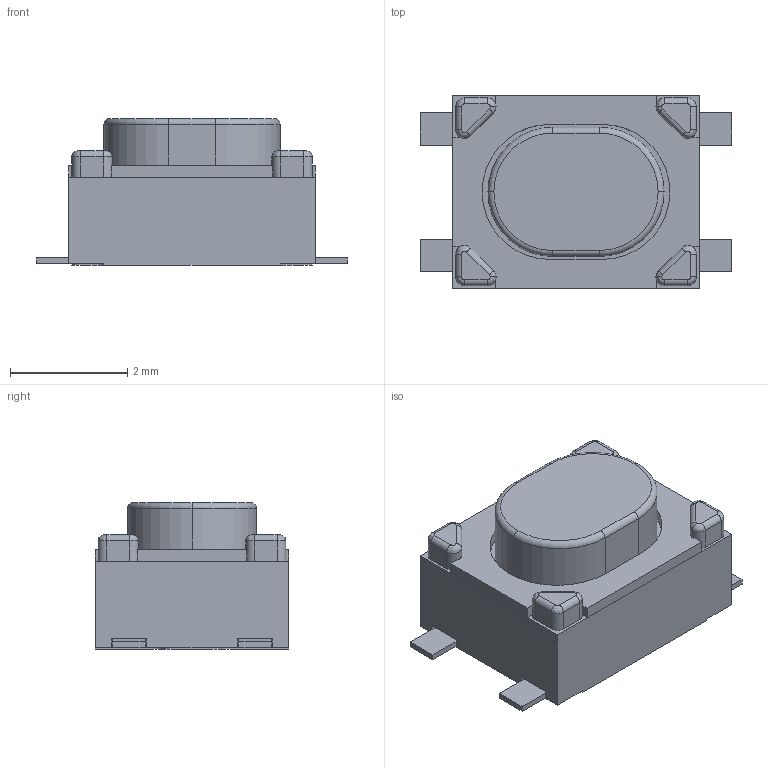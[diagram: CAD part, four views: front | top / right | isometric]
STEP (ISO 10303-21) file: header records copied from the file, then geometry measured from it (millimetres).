
FILE_DESCRIPTION((''),'2;1');
FILE_NAME('JQA3242-B0253-01AG-1-105_ASM','2026-04-11T15:42:38',('Admin'),(''),'CREO PARAMETRIC BY PTC INC, 2019224','CREO PARAMETRIC BY PTC INC, 2019224','');
FILE_SCHEMA(('AUTOMOTIVE_DESIGN { 1 0 10303 214 1 1 1 1 }'));
Length unit declared in the file: millimetre
Products named in the file (6): JQA3242-B0253-01AG-1-105_02; JQA3242-B0253-01AG-1-105_03; JQA3242-B0253-01AG-1-105_06; JQA3242-B0253-01AG-1-105_07; JQA3242-B0253-01AG-1-105_01_ASM; JQA3242-B0253-01AG-1-105_ASM
Assembly tree (6 placements, depth 3):
  JQA3242-B0253-01AG-1-105_ASM
    JQA3242-B0253-01AG-1-105_01_ASM
      JQA3242-B0253-01AG-1-105_02
      JQA3242-B0253-01AG-1-105_03
      JQA3242-B0253-01AG-1-105_06
      JQA3242-B0253-01AG-1-105_07  x2
Bounding box: 5.3 x 3.3 x 2.5 mm (x, y, z)
Volume: 27.2 mm3; surface area: 111 mm2
Topology: 5 solids, 5 shells, 238 faces, 633 edges, 410 vertices
Faces by surface type: plane 123, cylinder 95, bspline 16, torus 4
Entity records: 8719 total; most frequent: CARTESIAN_POINT 1589, DIRECTION 1221, ORIENTED_EDGE 1146, EDGE_CURVE 573, AXIS2_PLACEMENT_3D 433, PRESENTATION_STYLE_ASSIGNMENT 432, STYLED_ITEM 432, CURVE_STYLE 430
